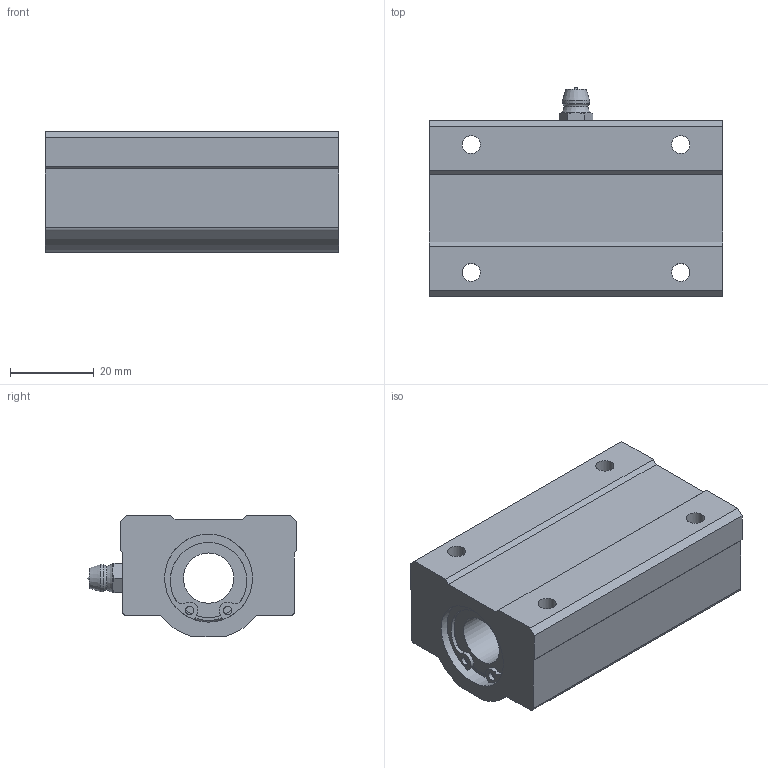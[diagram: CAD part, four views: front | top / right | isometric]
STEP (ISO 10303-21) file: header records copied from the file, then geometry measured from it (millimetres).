
FILE_DESCRIPTION((''),'2;1');
FILE_NAME('D:\製品 (図面)\カタログ用3D\リニアベアリング関連\STEP形式\LHW-B\LHW12B.stp','2010-05-21T10:46:36',('Tsuchiya'),(''),'Autodesk Inventor 10','Autodesk Inventor 10','');
FILE_SCHEMA(('AUTOMOTIVE_DESIGN { 1 0 10303 214 1 1 1 1 }'));
Length unit declared in the file: millimetre
Products named in the file (1): LHW12B
Bounding box: 70 x 49.9 x 29 mm (x, y, z)
Volume: 63498.5 mm3; surface area: 17671.6 mm2
Topology: 1 solids, 7 shells, 122 faces, 305 edges, 193 vertices
Faces by surface type: plane 46, bspline 40, cylinder 25, cone 7, torus 2, sphere 2
Full cylindrical faces by diameter (mm): 2 x2, 12 x2, 18.8 x2, 20 x2, 21 x8
Entity records: 3685 total; most frequent: CARTESIAN_POINT 1053, DIRECTION 534, ORIENTED_EDGE 488, EDGE_CURVE 244, AXIS2_PLACEMENT_3D 219, EDGE_LOOP 192, VERTEX_POINT 172, CIRCLE 136
